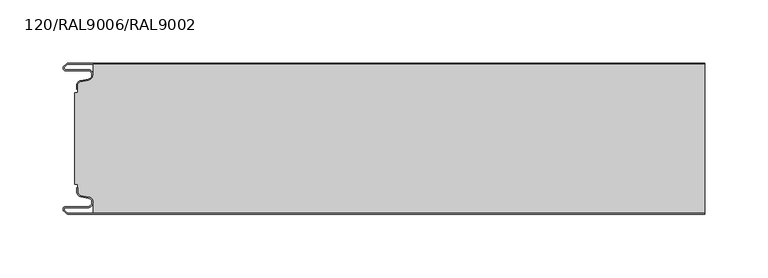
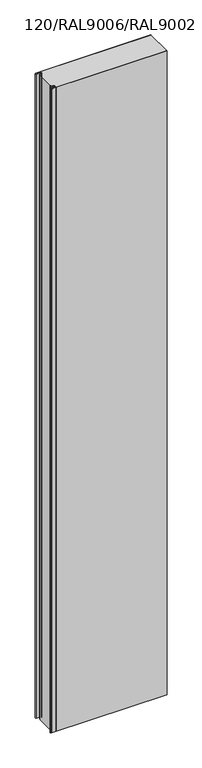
"""IFC4 building model written with IfcOpenShell, lengths in millimetres: plate geometry, TR_C_V_FTV_Panel_cut_GROOVE : 120/RAL9006/RAL9002."""

from ifc_helpers import new_model, si_unit, point, frame_2d, origin, origin_with_axes, place, context, project, spatial, polyline, circle_curve, trimmed, segment, composite_curve, outline, extrude, source, transform, mapped, element, save


def plate_120_ral9006_ral9002_90d9581f(model_context):
    return source(origin(), model_context, "Body", "SweptSolid", [
        extrude(outline(composite_curve([segment(trimmed(circle_curve(frame_2d((-255.0186281, -117.25)), 2.75), [point((-255.0186281, -120.0))], [point((-256.9631718, -119.1945436))], False, "CARTESIAN"), True, "CONTINUOUS"), segment(polyline([(-256.9631718, -119.1945436), (-258.8288572, -117.3288582)]), True, "CONTINUOUS"), segment(trimmed(circle_curve(frame_2d((-257.449999, -115.95)), 1.95), [point((-258.8288572, -117.3288582))], [point((-257.449999, -114.0))], False, "CARTESIAN"), True, "CONTINUOUS"), segment(polyline([(-257.449999, -114.0), (-239.849999, -114.0)]), True, "CONTINUOUS"), segment(trimmed(circle_curve(frame_2d((-239.849999, -110.55)), 3.45), [point((-239.849999, -114.0))], [point((-239.2509128, -107.1524133))], True, "CARTESIAN"), True, "CONTINUOUS"), segment(polyline([(-239.2509128, -107.1524133), (-245.3011797, -106.085588)]), True, "CONTINUOUS"), segment(trimmed(circle_curve(frame_2d((-244.649999, -102.3925589)), 3.75), [point((-245.3011797, -106.085588))], [point((-248.399999, -102.3925589))], False, "CARTESIAN"), True, "CONTINUOUS"), segment(polyline([(-248.399999, -102.3925589), (-248.399999, -99.0), (-247.599999, -99.0), (-247.599999, -102.3925589)]), True, "CONTINUOUS"), segment(trimmed(circle_curve(frame_2d((-244.649999, -102.3925589)), 2.95), [point((-247.599999, -102.3925589))], [point((-245.1622611, -105.2977418))], True, "CARTESIAN"), True, "CONTINUOUS"), segment(polyline([(-245.1622611, -105.2977418), (-239.1119942, -106.364567)]), True, "CONTINUOUS"), segment(trimmed(circle_curve(frame_2d((-239.849999, -110.55)), 4.25), [point((-239.1119942, -106.364567))], [point((-239.849999, -114.8))], False, "CARTESIAN"), True, "CONTINUOUS"), segment(polyline([(-239.849999, -114.8), (-257.449999, -114.8)]), True, "CONTINUOUS"), segment(trimmed(circle_curve(frame_2d((-257.449999, -115.95)), 1.15), [point((-257.449999, -114.8))], [point((-258.2631718, -116.7631728))], True, "CARTESIAN"), True, "CONTINUOUS"), segment(polyline([(-258.2631718, -116.7631728), (-256.3974864, -118.6288582)]), True, "CONTINUOUS"), segment(trimmed(circle_curve(frame_2d((-255.0186281, -117.25)), 1.95), [point((-256.3974864, -118.6288582))], [point((-255.0186281, -119.2))], True, "CARTESIAN"), True, "CONTINUOUS"), segment(polyline([(-255.0186281, -119.2), (250.0000002, -119.2), (250.0000002, -120.0), (-255.0186281, -120.0)]), True, "CONTINUOUS")], self_intersect=False)), origin_with_axes(), (0.0, 0.0, 1.0), 2980.0),
        extrude(outline(composite_curve([segment(polyline([(-249.999999, -23.7), (-247.599999, -23.7), (-247.599999, -17.6074411)]), True, "CONTINUOUS"), segment(trimmed(circle_curve(frame_2d((-244.649999, -17.6074411)), 2.95), [point((-247.599999, -17.6074411))], [point((-245.1622611, -14.7022582))], False, "CARTESIAN"), True, "CONTINUOUS"), segment(polyline([(-245.1622611, -14.7022582), (-239.1119942, -13.635433)]), True, "CONTINUOUS"), segment(trimmed(circle_curve(frame_2d((-239.849999, -9.45)), 4.25), [point((-239.1119942, -13.635433))], [point((-235.599999, -9.45))], True, "CARTESIAN"), True, "CONTINUOUS"), segment(polyline([(-235.599999, -9.45), (-235.599999, -0.8), (250.0000002, -0.8), (250.0000002, -119.2), (-235.599999, -119.2), (-235.599999, -110.55)]), True, "CONTINUOUS"), segment(trimmed(circle_curve(frame_2d((-239.849999, -110.55)), 4.25), [point((-235.599999, -110.55))], [point((-239.1119942, -106.364567))], True, "CARTESIAN"), True, "CONTINUOUS"), segment(polyline([(-239.1119942, -106.364567), (-245.1622611, -105.2977418)]), True, "CONTINUOUS"), segment(trimmed(circle_curve(frame_2d((-244.649999, -102.3925589)), 2.95), [point((-245.1622611, -105.2977418))], [point((-247.599999, -102.3925589))], False, "CARTESIAN"), True, "CONTINUOUS"), segment(polyline([(-247.599999, -102.3925589), (-247.599999, -96.3), (-249.999999, -96.3), (-249.999999, -23.7)]), True, "CONTINUOUS")], self_intersect=False)), origin_with_axes(), (0.0, 0.0, 1.0), 2980.0),
        extrude(outline(composite_curve([segment(trimmed(circle_curve(frame_2d((-255.0186281, -2.75)), 1.95), [point((-255.0186281, -0.8))], [point((-256.3974864, -1.3711418))], True, "CARTESIAN"), True, "CONTINUOUS"), segment(polyline([(-256.3974864, -1.3711418), (-258.2631718, -3.2368272)]), True, "CONTINUOUS"), segment(trimmed(circle_curve(frame_2d((-257.449999, -4.05)), 1.15), [point((-258.2631718, -3.2368272))], [point((-257.449999, -5.2))], True, "CARTESIAN"), True, "CONTINUOUS"), segment(polyline([(-257.449999, -5.2), (-239.849999, -5.2)]), True, "CONTINUOUS"), segment(trimmed(circle_curve(frame_2d((-239.849999, -9.45)), 4.25), [point((-239.849999, -5.2))], [point((-239.1119942, -13.635433))], False, "CARTESIAN"), True, "CONTINUOUS"), segment(polyline([(-239.1119942, -13.635433), (-245.1622611, -14.7022582)]), True, "CONTINUOUS"), segment(trimmed(circle_curve(frame_2d((-244.649999, -17.6074411)), 2.95), [point((-245.1622611, -14.7022582))], [point((-247.599999, -17.6074411))], True, "CARTESIAN"), True, "CONTINUOUS"), segment(polyline([(-247.599999, -17.6074411), (-247.599999, -21.0), (-248.399999, -21.0), (-248.399999, -17.6074411)]), True, "CONTINUOUS"), segment(trimmed(circle_curve(frame_2d((-244.649999, -17.6074411)), 3.75), [point((-248.399999, -17.6074411))], [point((-245.3011797, -13.914412))], False, "CARTESIAN"), True, "CONTINUOUS"), segment(polyline([(-245.3011797, -13.914412), (-239.2509128, -12.8475867)]), True, "CONTINUOUS"), segment(trimmed(circle_curve(frame_2d((-239.849999, -9.45)), 3.45), [point((-239.2509128, -12.8475867))], [point((-239.849999, -6.0))], True, "CARTESIAN"), True, "CONTINUOUS"), segment(polyline([(-239.849999, -6.0), (-257.449999, -6.0)]), True, "CONTINUOUS"), segment(trimmed(circle_curve(frame_2d((-257.449999, -4.05)), 1.95), [point((-257.449999, -6.0))], [point((-258.8288572, -2.6711418))], False, "CARTESIAN"), True, "CONTINUOUS"), segment(polyline([(-258.8288572, -2.6711418), (-256.9631718, -0.8054564)]), True, "CONTINUOUS"), segment(trimmed(circle_curve(frame_2d((-255.0186281, -2.75)), 2.75), [point((-256.9631718, -0.8054564))], [point((-255.0186281, 0.0))], False, "CARTESIAN"), True, "CONTINUOUS"), segment(polyline([(-255.0186281, 0.0), (250.0000002, 0.0), (250.0000002, -0.8), (-255.0186281, -0.8)]), True, "CONTINUOUS")], self_intersect=False)), origin_with_axes(), (0.0, 0.0, 1.0), 2980.0),
    ])


if __name__ == "__main__":
    model = new_model("IFC4")
    model_context = context("Model", 3, world=origin())
    ifc_project = project(units=[si_unit("LENGTHUNIT", "METRE", prefix="MILLI")], contexts=[model_context])
    site = spatial("IfcSite", under=ifc_project)
    building = spatial("IfcBuilding", under=site)
    placement = place(None, origin())
    plate_120_ral9006_ral9002_shape = plate_120_ral9006_ral9002_90d9581f(model_context)
    element("IfcPlate", 1, ObjectType="TR_C_V_FTV_Panel_cut_GROOVE : 120/RAL9006/RAL9002", at=placement, inside=building, context=model_context, shape_type="MappedRepresentation", body=[
        mapped(plate_120_ral9006_ral9002_shape, transform((0.0, 0.0, 0.0), x_axis=(1.0, 0.0, 0.0), y_axis=(0.0, 1.0, 0.0), z_axis=(0.0, 0.0, 1.0))),
    ])
    save(model, "model.ifc")
